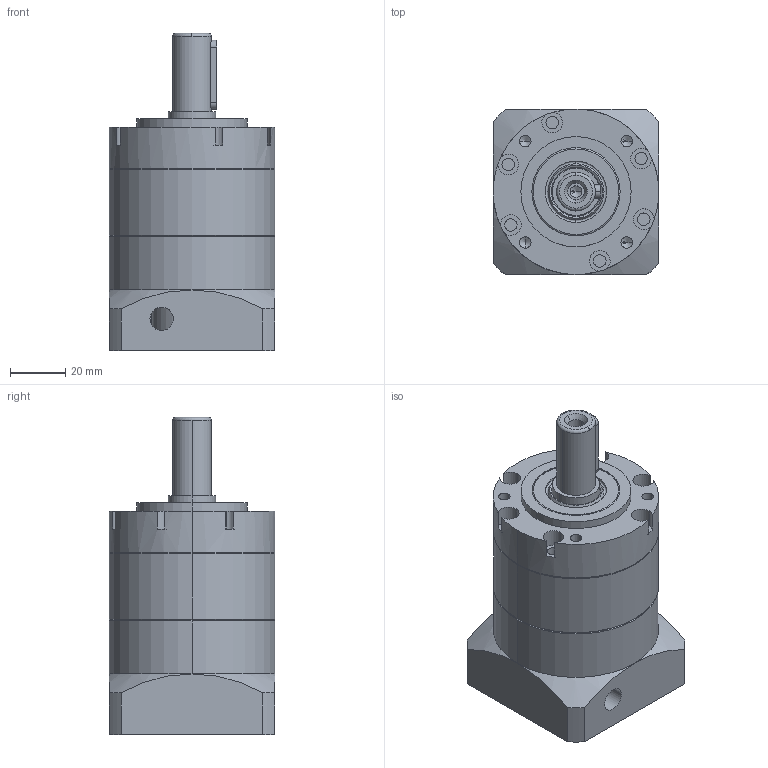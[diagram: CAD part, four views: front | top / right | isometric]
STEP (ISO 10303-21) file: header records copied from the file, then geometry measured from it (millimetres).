
FILE_DESCRIPTION (( 'STEP AP203' ), '1' );
FILE_NAME ('TPG060-L1-14-50-70.STEP', '2024-07-03T03:53:19', ( 'Windows User' ), ( 'P R C' ), 'SwSTEP 2.0', 'SolidWorks 2016', '' );
FILE_SCHEMA (( 'CONFIG_CONTROL_DESIGN' ));
Length unit declared in the file: millimetre
Products named in the file (9): GB／T276-94深沟球轴承61905-2RZ; TPG060-薊粣_LZ02; TPG060-内齿圈; TPG060-帣釱; TC18-32-7_TC-34.9-55-7; 囀鞠褒蹟佪-M5℅16; 邧埴瑩 5x5x25; TPG060-L1-14-50-70; TPG060-奻屳唳
Assembly tree (8 placements, depth 2):
  TPG060-L1-14-50-70
    TPG060-奻屳唳
    GB／T276-94深沟球轴承61905-2RZ
    TPG060-薊粣_LZ02
    TPG060-内齿圈
    TPG060-帣釱
    TC18-32-7_TC-34.9-55-7
    囀鞠褒蹟佪-M5℅16
    邧埴瑩 5x5x25
Bounding box: 60 x 60 x 115 mm (x, y, z)
Volume: 214513.3 mm3; surface area: 66153.5 mm2
Topology: 24 solids, 24 shells, 1074 faces, 3074 edges, 2022 vertices
Faces by surface type: plane 522, cylinder 178, bspline 164, sphere 95, torus 75, cone 40
Entity records: 45333 total; most frequent: CARTESIAN_POINT 17564, ORIENTED_EDGE 6034, DIRECTION 4956, EDGE_CURVE 3017, VERTEX_POINT 1996, AXIS2_PLACEMENT_3D 1768, LINE 1420, VECTOR 1420
